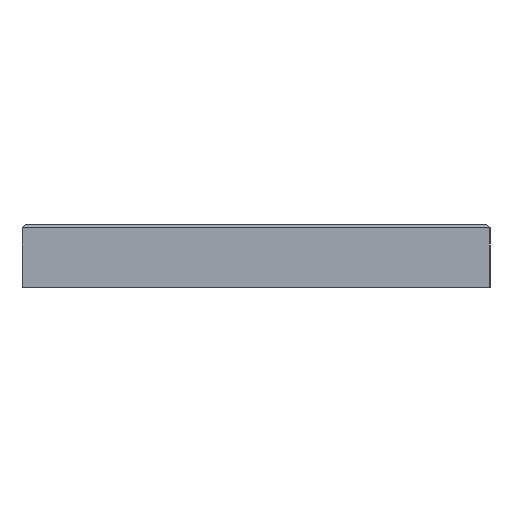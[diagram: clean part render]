
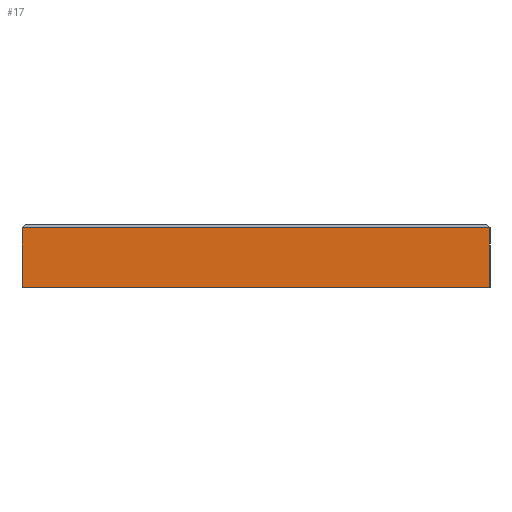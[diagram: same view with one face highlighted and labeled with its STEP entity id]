
A CAD part, left-side view. The second image highlights one B-rep face of the part: STEP entity #17.
In plain terms, the highlighted planar face has unit normal (-1, 0, 0).
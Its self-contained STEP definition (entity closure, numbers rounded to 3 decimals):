
#17 = ADVANCED_FACE('',(#18),#32,.F.);
#18 = FACE_BOUND('',#19,.F.);
#19 = EDGE_LOOP('',(#20,#55,#83,#111));
#20 = ORIENTED_EDGE('',*,*,#21,.F.);
#21 = EDGE_CURVE('',#22,#24,#26,.T.);
#22 = VERTEX_POINT('',#23);
#23 = CARTESIAN_POINT('',(-27.,-15.,0.));
#24 = VERTEX_POINT('',#25);
#25 = CARTESIAN_POINT('',(-27.,-15.,3.8));
#26 = SURFACE_CURVE('',#27,(#31,#43),.PCURVE_S1.);
#27 = LINE('',#28,#29);
#28 = CARTESIAN_POINT('',(-27.,-15.,0.));
#29 = VECTOR('',#30,1.);
#30 = DIRECTION('',(0.,0.,1.));
#31 = PCURVE('',#32,#37);
#32 = PLANE('',#33);
#33 = AXIS2_PLACEMENT_3D('',#34,#35,#36);
#34 = CARTESIAN_POINT('',(-27.,-15.,0.));
#35 = DIRECTION('',(1.,0.,0.));
#36 = DIRECTION('',(0.,0.,1.));
#37 = DEFINITIONAL_REPRESENTATION('',(#38),#42);
#38 = LINE('',#39,#40);
#39 = CARTESIAN_POINT('',(0.,0.));
#40 = VECTOR('',#41,1.);
#41 = DIRECTION('',(1.,0.));
#42 = ( GEOMETRIC_REPRESENTATION_CONTEXT(2) 
PARAMETRIC_REPRESENTATION_CONTEXT() REPRESENTATION_CONTEXT('2D SPACE',''
  ) );
#43 = PCURVE('',#44,#49);
#44 = PLANE('',#45);
#45 = AXIS2_PLACEMENT_3D('',#46,#47,#48);
#46 = CARTESIAN_POINT('',(-27.,-15.,0.));
#47 = DIRECTION('',(0.,1.,0.));
#48 = DIRECTION('',(0.,0.,1.));
#49 = DEFINITIONAL_REPRESENTATION('',(#50),#54);
#50 = LINE('',#51,#52);
#51 = CARTESIAN_POINT('',(0.,0.));
#52 = VECTOR('',#53,1.);
#53 = DIRECTION('',(1.,0.));
#54 = ( GEOMETRIC_REPRESENTATION_CONTEXT(2) 
PARAMETRIC_REPRESENTATION_CONTEXT() REPRESENTATION_CONTEXT('2D SPACE',''
  ) );
#55 = ORIENTED_EDGE('',*,*,#56,.T.);
#56 = EDGE_CURVE('',#22,#57,#59,.T.);
#57 = VERTEX_POINT('',#58);
#58 = CARTESIAN_POINT('',(-27.,15.,0.));
#59 = SURFACE_CURVE('',#60,(#64,#71),.PCURVE_S1.);
#60 = LINE('',#61,#62);
#61 = CARTESIAN_POINT('',(-27.,-15.,0.));
#62 = VECTOR('',#63,1.);
#63 = DIRECTION('',(0.,1.,0.));
#64 = PCURVE('',#32,#65);
#65 = DEFINITIONAL_REPRESENTATION('',(#66),#70);
#66 = LINE('',#67,#68);
#67 = CARTESIAN_POINT('',(0.,0.));
#68 = VECTOR('',#69,1.);
#69 = DIRECTION('',(0.,-1.));
#70 = ( GEOMETRIC_REPRESENTATION_CONTEXT(2) 
PARAMETRIC_REPRESENTATION_CONTEXT() REPRESENTATION_CONTEXT('2D SPACE',''
  ) );
#71 = PCURVE('',#72,#77);
#72 = PLANE('',#73);
#73 = AXIS2_PLACEMENT_3D('',#74,#75,#76);
#74 = CARTESIAN_POINT('',(-27.,-15.,0.));
#75 = DIRECTION('',(0.,0.,1.));
#76 = DIRECTION('',(1.,0.,0.));
#77 = DEFINITIONAL_REPRESENTATION('',(#78),#82);
#78 = LINE('',#79,#80);
#79 = CARTESIAN_POINT('',(0.,0.));
#80 = VECTOR('',#81,1.);
#81 = DIRECTION('',(0.,1.));
#82 = ( GEOMETRIC_REPRESENTATION_CONTEXT(2) 
PARAMETRIC_REPRESENTATION_CONTEXT() REPRESENTATION_CONTEXT('2D SPACE',''
  ) );
#83 = ORIENTED_EDGE('',*,*,#84,.T.);
#84 = EDGE_CURVE('',#57,#85,#87,.T.);
#85 = VERTEX_POINT('',#86);
#86 = CARTESIAN_POINT('',(-27.,15.,3.8));
#87 = SURFACE_CURVE('',#88,(#92,#99),.PCURVE_S1.);
#88 = LINE('',#89,#90);
#89 = CARTESIAN_POINT('',(-27.,15.,0.));
#90 = VECTOR('',#91,1.);
#91 = DIRECTION('',(0.,0.,1.));
#92 = PCURVE('',#32,#93);
#93 = DEFINITIONAL_REPRESENTATION('',(#94),#98);
#94 = LINE('',#95,#96);
#95 = CARTESIAN_POINT('',(0.,-30.));
#96 = VECTOR('',#97,1.);
#97 = DIRECTION('',(1.,0.));
#98 = ( GEOMETRIC_REPRESENTATION_CONTEXT(2) 
PARAMETRIC_REPRESENTATION_CONTEXT() REPRESENTATION_CONTEXT('2D SPACE',''
  ) );
#99 = PCURVE('',#100,#105);
#100 = PLANE('',#101);
#101 = AXIS2_PLACEMENT_3D('',#102,#103,#104);
#102 = CARTESIAN_POINT('',(-27.,15.,0.));
#103 = DIRECTION('',(0.,1.,0.));
#104 = DIRECTION('',(0.,0.,1.));
#105 = DEFINITIONAL_REPRESENTATION('',(#106),#110);
#106 = LINE('',#107,#108);
#107 = CARTESIAN_POINT('',(0.,0.));
#108 = VECTOR('',#109,1.);
#109 = DIRECTION('',(1.,0.));
#110 = ( GEOMETRIC_REPRESENTATION_CONTEXT(2) 
PARAMETRIC_REPRESENTATION_CONTEXT() REPRESENTATION_CONTEXT('2D SPACE',''
  ) );
#111 = ORIENTED_EDGE('',*,*,#112,.F.);
#112 = EDGE_CURVE('',#24,#85,#113,.T.);
#113 = SURFACE_CURVE('',#114,(#118,#125),.PCURVE_S1.);
#114 = LINE('',#115,#116);
#115 = CARTESIAN_POINT('',(-27.,-15.,3.8));
#116 = VECTOR('',#117,1.);
#117 = DIRECTION('',(0.,1.,0.));
#118 = PCURVE('',#32,#119);
#119 = DEFINITIONAL_REPRESENTATION('',(#120),#124);
#120 = LINE('',#121,#122);
#121 = CARTESIAN_POINT('',(3.8,0.));
#122 = VECTOR('',#123,1.);
#123 = DIRECTION('',(0.,-1.));
#124 = ( GEOMETRIC_REPRESENTATION_CONTEXT(2) 
PARAMETRIC_REPRESENTATION_CONTEXT() REPRESENTATION_CONTEXT('2D SPACE',''
  ) );
#125 = PCURVE('',#126,#131);
#126 = PLANE('',#127);
#127 = AXIS2_PLACEMENT_3D('',#128,#129,#130);
#128 = CARTESIAN_POINT('',(-26.9,-15.,3.9));
#129 = DIRECTION('',(0.707,0.,-0.707));
#130 = DIRECTION('',(0.,1.,0.));
#131 = DEFINITIONAL_REPRESENTATION('',(#132),#136);
#132 = LINE('',#133,#134);
#133 = CARTESIAN_POINT('',(0.,-0.141));
#134 = VECTOR('',#135,1.);
#135 = DIRECTION('',(1.,0.));
#136 = ( GEOMETRIC_REPRESENTATION_CONTEXT(2) 
PARAMETRIC_REPRESENTATION_CONTEXT() REPRESENTATION_CONTEXT('2D SPACE',''
  ) );
